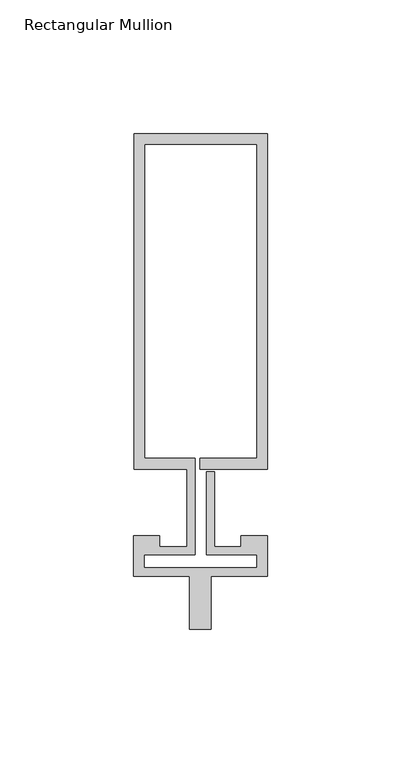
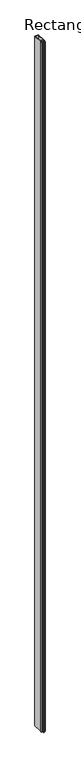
"""IFC4 building model written with IfcOpenShell, lengths in millimetres: member geometry, Rectangular Mullion : Reynaers_CW-50_Mullion-Transom_Vertical_125.5mm_Facecap-06A."""

from ifc_helpers import new_model, si_unit, frame, origin, place, context, project, spatial, polyline, outline, extrude, source, transform, mapped, element, save


def rectangular_mullion_e76d6326(model_context):
    return source(origin(), model_context, "Body", "SweptSolid", [
        extrude(outline(polyline([(-24.8004059, 138.0), (25.1995941, 138.0), (25.1995941, 12.5), (0.0, 12.5), (0.0, 16.5), (21.1995941, 16.5), (21.1995941, 134.0), (-20.8004059, 134.0), (-20.8004059, 16.5), (-1.9004059, 16.5), (-1.9004059, -19.5), (-20.994845, -19.5), (-20.994845, -24.4191338), (21.1995941, -24.4191338), (21.1995941, -19.5), (2.2995941, -19.5), (2.2995941, 11.5), (5.2995941, 11.5), (5.2995941, -16.5), (15.2996495, -16.5), (15.2996495, -12.5), (25.1995941, -12.5), (25.1995941, -27.5), (4.004855, -27.5), (4.004855, -47.5), (-3.995145, -47.5), (-3.995145, -27.5), (-24.994845, -27.5), (-24.994845, -12.5), (-15.2996495, -12.5), (-15.2996495, -16.5), (-4.9004059, -16.5), (-4.9004059, 12.5), (-24.8004059, 12.5), (-24.8004059, 138.0)])), frame((0.0, 0.0, -10400.0), z_axis=(0.0, 0.0, 1.0), x_axis=(1.0, 0.0, 0.0)), (0.0, 0.0, 1.0), 10400.0),
    ])


if __name__ == "__main__":
    model = new_model("IFC4")
    model_context = context("Model", 3, world=origin())
    ifc_project = project(units=[si_unit("LENGTHUNIT", "METRE", prefix="MILLI")], contexts=[model_context])
    site = spatial("IfcSite", under=ifc_project)
    building = spatial("IfcBuilding", under=site)
    placement = place(None, origin())
    rectangular_mullion_shape = rectangular_mullion_e76d6326(model_context)
    element("IfcMember", 1, ObjectType="Rectangular Mullion : Reynaers_CW-50_Mullion-Transom_Vertical_125.5mm_Facecap-06A", at=placement, inside=building, context=model_context, shape_type="MappedRepresentation", body=[
        mapped(rectangular_mullion_shape, transform((0.0, 0.0, 0.0), x_axis=(1.0, 0.0, 0.0), y_axis=(0.0, 1.0, 0.0), z_axis=(0.0, 0.0, 1.0))),
    ])
    save(model, "model.ifc")
